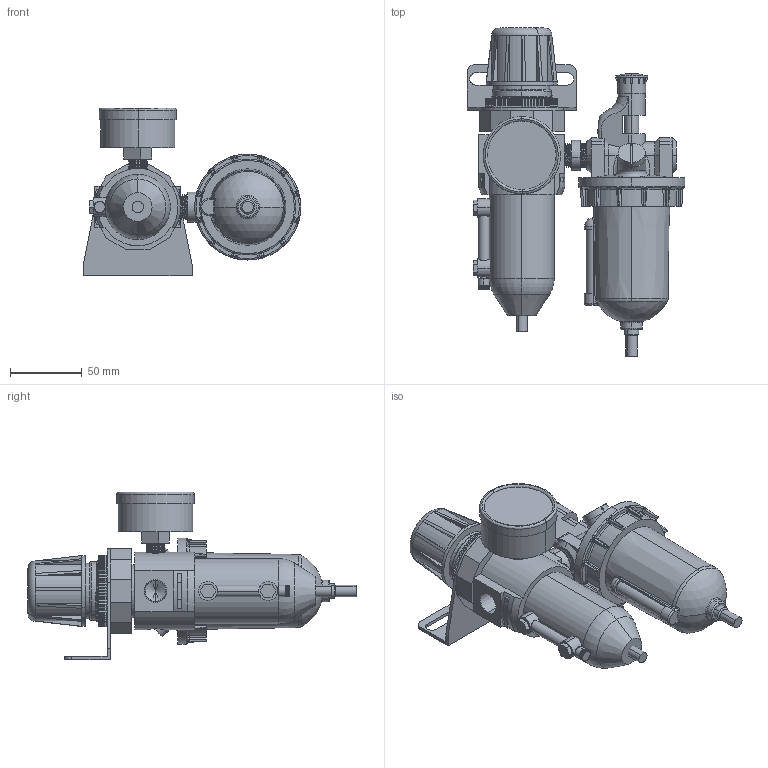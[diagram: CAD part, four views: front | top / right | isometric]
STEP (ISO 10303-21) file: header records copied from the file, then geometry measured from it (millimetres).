
FILE_DESCRIPTION (( 'STEP AP203' ), '1' );
FILE_NAME ('U658W-03#YB#.STEP', '2016-02-16T07:05:27', ( '' ), ( '' ), 'SwSTEP 2.0', 'SolidWorks 2014', '' );
FILE_SCHEMA (( 'CONFIG_CONTROL_DESIGN' ));
Length unit declared in the file: millimetre
Products named in the file (24): R010-4; D011W-4; U658W-03#YB#; B011W-03#YGB#; 50-P-AD=1-4PT.SLDPRT; L606-W-04-1; 50-P-AD=1-4PT-2; D011W-5; 50-P-AD=1-4PT-1; R010-3; KWSAR10Y57; KWR10X51; L606-W-06-4; KWSAR10Y57-1; L606-W-06-3; L606-W-06-5; D011W-6
Assembly tree (26 placements, depth 5):
  U658W-03#YB#
    B011W-03#YGB#
      (unnamed)
      50-P-AD=1-4PT.SLDPRT
        50-P-AD=1-4PT-1
        50-P-AD=1-4PT-2
      L606-W-06-5
      (unnamed)
        R010-3
        R010-4
        KWSAR10Y57
          KWSAR10Y57-1
          KWR10X51
      (unnamed)
        D011W-5  x2
        D011W-4
        D011W-6
    (unnamed)
      L606-W-06-5
      L606-W-06-4
      L606-W-06-3  x2
      L606-W-04-1
      (unnamed)
      (unnamed)
    (unnamed)
Bounding box: 151.75 x 229 x 117 mm (x, y, z)
Volume: 719714.6 mm3; surface area: 126413.8 mm2
Topology: 21 solids, 21 shells, 1219 faces, 3240 edges, 2054 vertices
Faces by surface type: plane 652, cylinder 276, bspline 122, cone 89, torus 47, sphere 33
Entity records: 51287 total; most frequent: CARTESIAN_POINT 20206, ORIENTED_EDGE 6296, DIRECTION 5632, EDGE_CURVE 3148, VERTEX_POINT 2018, AXIS2_PLACEMENT_3D 1971, VECTOR 1690, LINE 1690
